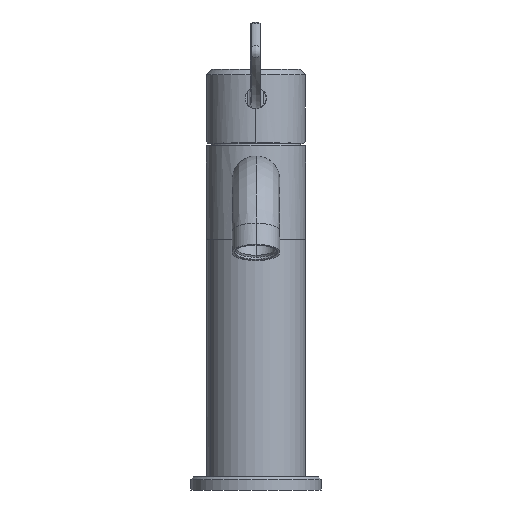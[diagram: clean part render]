
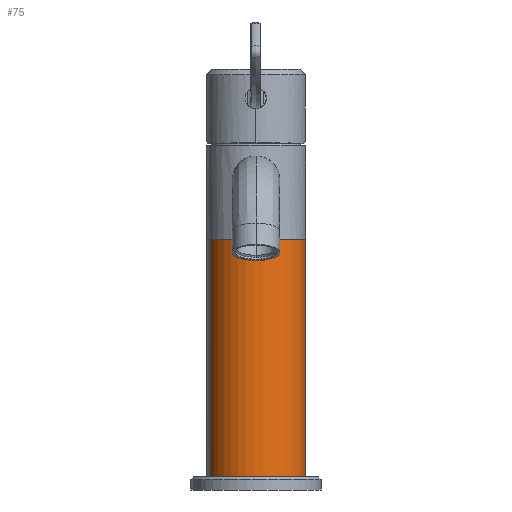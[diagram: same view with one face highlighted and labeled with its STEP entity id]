
A CAD part, front view. The second image highlights one B-rep face of the part: STEP entity #75.
In plain terms, the highlighted cylindrical face has radius 19 mm (diameter 38 mm), a partial arc.
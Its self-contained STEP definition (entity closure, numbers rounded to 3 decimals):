
#75=ADVANCED_FACE('',(#363),#4451,.T.);
#363=FACE_OUTER_BOUND('',#652,.T.);
#652=EDGE_LOOP('',(#979,#980,#981,#982));
#979=ORIENTED_EDGE('',*,*,#2357,.F.);
#980=ORIENTED_EDGE('',*,*,#2360,.T.);
#981=ORIENTED_EDGE('',*,*,#2359,.F.);
#982=ORIENTED_EDGE('',*,*,#2361,.F.);
#2357=EDGE_CURVE('',#3777,#3778,#3212,.T.);
#2359=EDGE_CURVE('',#3779,#3776,#3213,.T.);
#2360=EDGE_CURVE('',#3777,#3776,#3066,.T.);
#2361=EDGE_CURVE('',#3778,#3779,#3067,.T.);
#3066=(
BOUNDED_CURVE()
B_SPLINE_CURVE(2,(#5204,#5205,#5206,#5207,#5208),.UNSPECIFIED.,.F.,.F.)
B_SPLINE_CURVE_WITH_KNOTS((3,2,3),(0.,38.,76.),
 .UNSPECIFIED.)
CURVE()
GEOMETRIC_REPRESENTATION_ITEM()
RATIONAL_B_SPLINE_CURVE((1.,0.707,1.,0.707,1.))
REPRESENTATION_ITEM('')
);
#3067=(
BOUNDED_CURVE()
B_SPLINE_CURVE(2,(#5209,#5210,#5211,#5212,#5213),.UNSPECIFIED.,.F.,.F.)
B_SPLINE_CURVE_WITH_KNOTS((3,2,3),(-76.,-38.,0.),.UNSPECIFIED.)
CURVE()
GEOMETRIC_REPRESENTATION_ITEM()
RATIONAL_B_SPLINE_CURVE((1.,0.707,1.,0.707,1.))
REPRESENTATION_ITEM('')
);
#3212=B_SPLINE_CURVE_WITH_KNOTS('',1,(#5195,#5196),.UNSPECIFIED.,.F.,.F.,
(2,2),(0.,91.),.UNSPECIFIED.);
#3213=B_SPLINE_CURVE_WITH_KNOTS('',1,(#5202,#5203),.UNSPECIFIED.,.F.,.F.,
(2,2),(0.,91.),.UNSPECIFIED.);
#3776=VERTEX_POINT('',#5185);
#3777=VERTEX_POINT('',#5186);
#3778=VERTEX_POINT('',#5187);
#3779=VERTEX_POINT('',#5188);
#4451=CYLINDRICAL_SURFACE('',#4615,19.);
#4615=AXIS2_PLACEMENT_3D('',#5184,#4867,$);
#4867=DIRECTION('',(0.,0.,1.));
#5184=CARTESIAN_POINT('',(0.001,0.,50.5));
#5185=CARTESIAN_POINT('',(17.552,7.278,5.));
#5186=CARTESIAN_POINT('',(-17.55,-7.278,5.));
#5187=CARTESIAN_POINT('',(-17.55,-7.278,96.));
#5188=CARTESIAN_POINT('',(17.552,7.278,96.));
#5195=CARTESIAN_POINT('',(-17.55,-7.278,5.));
#5196=CARTESIAN_POINT('',(-17.55,-7.278,96.));
#5202=CARTESIAN_POINT('',(17.552,7.278,96.));
#5203=CARTESIAN_POINT('',(17.552,7.278,5.));
#5204=CARTESIAN_POINT('',(-17.55,-7.278,5.));
#5205=CARTESIAN_POINT('',(-10.272,-24.829,5.));
#5206=CARTESIAN_POINT('',(7.279,-17.551,5.));
#5207=CARTESIAN_POINT('',(24.83,-10.273,5.));
#5208=CARTESIAN_POINT('',(17.552,7.278,5.));
#5209=CARTESIAN_POINT('',(-17.55,-7.278,96.));
#5210=CARTESIAN_POINT('',(-10.272,-24.829,96.));
#5211=CARTESIAN_POINT('',(7.279,-17.551,96.));
#5212=CARTESIAN_POINT('',(24.83,-10.273,96.));
#5213=CARTESIAN_POINT('',(17.552,7.278,96.));
